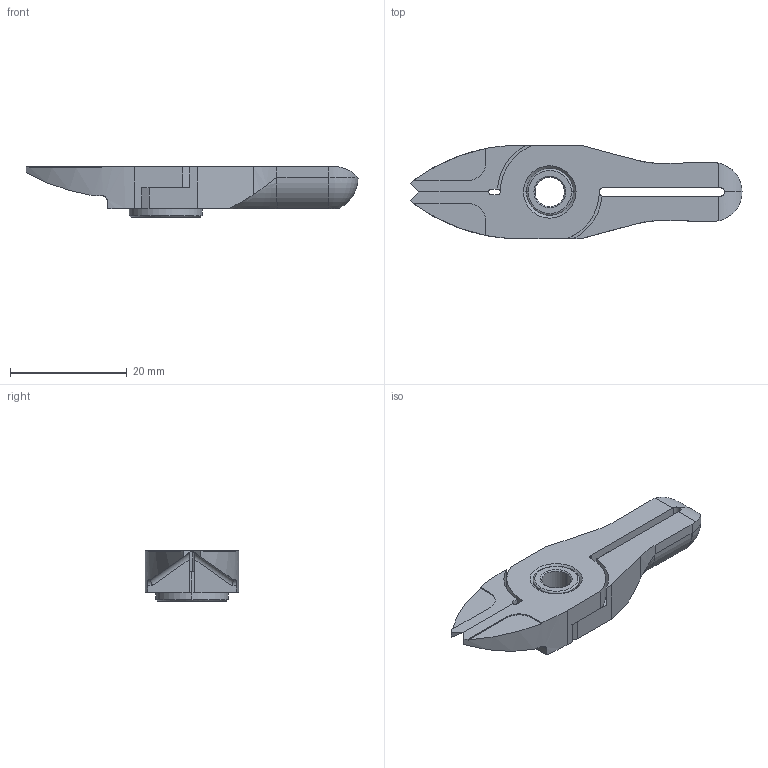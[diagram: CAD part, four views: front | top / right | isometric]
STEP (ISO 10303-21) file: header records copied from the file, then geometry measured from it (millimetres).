
FILE_DESCRIPTION (( 'STEP AP214' ), '1' );
FILE_NAME ('NY10RAJ.STEP', '2019-11-28T03:13:29', ( '微软用户' ), ( '微软中国' ), 'SwSTEP 2.0', 'SolidWorks 2016', '' );
FILE_SCHEMA (( 'AUTOMOTIVE_DESIGN' ));
Length unit declared in the file: millimetre
Products named in the file (1): NY10RAJ
Bounding box: 57 x 16 x 8.7 mm (x, y, z)
Surface area: 3743.9 mm2 (no closed solid volume)
Topology: 0 solids, 3 shells, 126 faces, 340 edges, 214 vertices
Faces by surface type: cylinder 52, plane 41, cone 22, torus 9, bspline 2
Entity records: 4281 total; most frequent: CARTESIAN_POINT 1077, DIRECTION 689, ORIENTED_EDGE 648, EDGE_CURVE 336, AXIS2_PLACEMENT_3D 262, VERTEX_POINT 214, VECTOR 165, LINE 165
